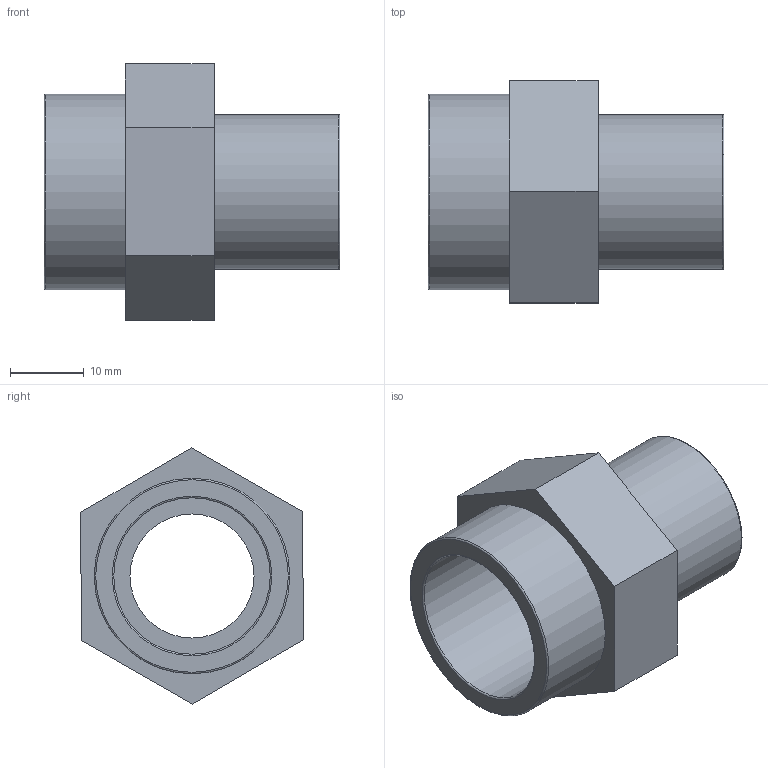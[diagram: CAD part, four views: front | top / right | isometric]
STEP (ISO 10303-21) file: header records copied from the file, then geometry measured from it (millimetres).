
FILE_DESCRIPTION(/* description */ ('PLASSON THR. REDUCING NIPPLE 3/4"-1/2" PVC'),/* implementation_level */ '2;1');
FILE_NAME(/* name */ 'C:\Dropbox\KIMPROJECTS-Inventor\99-16-3568-Processing\PVC Catalog 2017\051601\051601007005.ipt.stp',/* time_stamp */ '2017-12-07T16:00:51+02:00',/* author */ ('KIM'),/* organization */ (''),/* preprocessor_version */ 'ST-DEVELOPER v15.6',/* originating_system */ 'Autodesk Inventor 2015',/* authorisation */ '');
FILE_SCHEMA (('AUTOMOTIVE_DESIGN { 1 0 10303 214 3 1 1 }'));
Length unit declared in the file: millimetre
Products named in the file (1): 051601007005
Bounding box: 40 x 30.06 x 34.64 mm (x, y, z)
Volume: 9862.9 mm3; surface area: 6750.1 mm2
Topology: 1 solids, 1 shells, 19 faces, 38 edges, 24 vertices
Faces by surface type: plane 11, torus 4, cylinder 4
Full cylindrical faces by diameter (mm): 16.764 x1, 20.955 x1, 21.153 x1, 26.441 x1
Entity records: 480 total; most frequent: DIRECTION 82, CARTESIAN_POINT 74, ORIENTED_EDGE 60, EDGE_LOOP 32, AXIS2_PLACEMENT_3D 32, EDGE_CURVE 30, VERTEX_POINT 24, FACE_OUTER_BOUND 19
